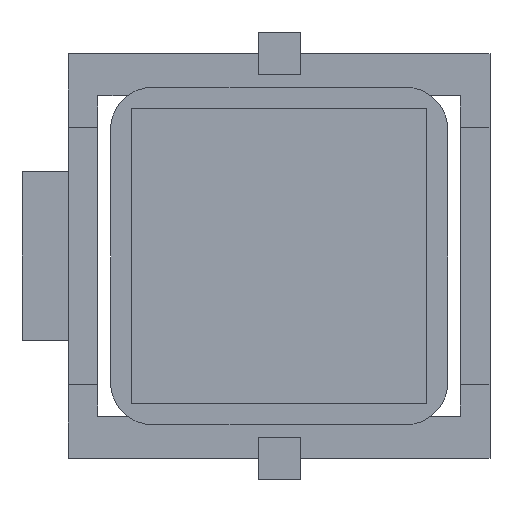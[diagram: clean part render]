
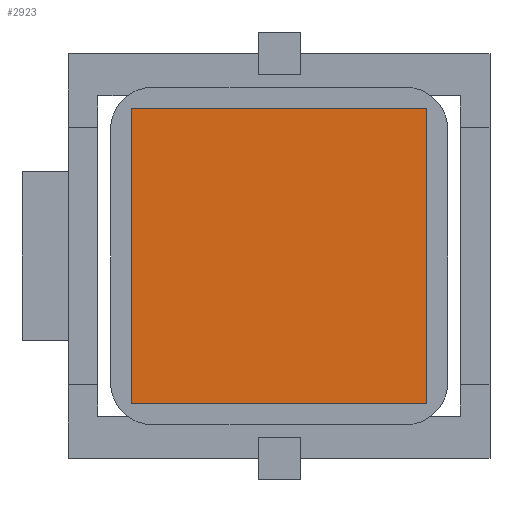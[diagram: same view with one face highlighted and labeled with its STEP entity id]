
A CAD part, front view. The second image highlights one B-rep face of the part: STEP entity #2923.
In plain terms, the highlighted planar face has unit normal (0, -1, 0).
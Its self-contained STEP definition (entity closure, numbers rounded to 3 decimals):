
#200 = EDGE_CURVE ( 'NONE', #708, #724, #4547, .T. ) ;
#300 = CARTESIAN_POINT ( 'NONE',  ( -2.913, -13.936, 14.225 ) ) ;
#400 = VECTOR ( 'NONE', #2028, 1000. ) ;
#423 = CARTESIAN_POINT ( 'NONE',  ( -2.913, -13.936, 0.225 ) ) ;
#668 = VECTOR ( 'NONE', #3876, 1000. ) ;
#708 = VERTEX_POINT ( 'NONE', #4004 ) ;
#724 = VERTEX_POINT ( 'NONE', #2916 ) ;
#941 = FACE_OUTER_BOUND ( 'NONE', #3936, .T. ) ;
#992 = CARTESIAN_POINT ( 'NONE',  ( -2.913, -13.936, 0.225 ) ) ;
#1210 = LINE ( 'NONE', #2283, #4342 ) ;
#1410 = CARTESIAN_POINT ( 'NONE',  ( 11.087, -13.936, 0.225 ) ) ;
#1507 = EDGE_CURVE ( 'NONE', #724, #1608, #3414, .T. ) ;
#1527 = ORIENTED_EDGE ( 'NONE', *, *, #3766, .F. ) ;
#1608 = VERTEX_POINT ( 'NONE', #1831 ) ;
#1723 = VERTEX_POINT ( 'NONE', #1410 ) ;
#1750 = ORIENTED_EDGE ( 'NONE', *, *, #2766, .F. ) ;
#1818 = LINE ( 'NONE', #423, #4440 ) ;
#1831 = CARTESIAN_POINT ( 'NONE',  ( 11.087, -13.936, 14.225 ) ) ;
#2028 = DIRECTION ( 'NONE',  ( 1., 0., 0. ) ) ;
#2031 = ORIENTED_EDGE ( 'NONE', *, *, #200, .F. ) ;
#2119 = AXIS2_PLACEMENT_3D ( 'NONE', #3711, #3372, #4079 ) ;
#2283 = CARTESIAN_POINT ( 'NONE',  ( 11.087, -13.936, 0.225 ) ) ;
#2766 = EDGE_CURVE ( 'NONE', #1608, #1723, #1210, .T. ) ;
#2841 = DIRECTION ( 'NONE',  ( -1., 0., 0. ) ) ;
#2916 = CARTESIAN_POINT ( 'NONE',  ( -2.913, -13.936, 14.225 ) ) ;
#2923 = ADVANCED_FACE ( 'NONE', ( #941 ), #4061, .F. ) ;
#3316 = DIRECTION ( 'NONE',  ( 0., 0., -1. ) ) ;
#3372 = DIRECTION ( 'NONE',  ( 0., 1., 0. ) ) ;
#3414 = LINE ( 'NONE', #300, #400 ) ;
#3711 = CARTESIAN_POINT ( 'NONE',  ( -2.913, -13.936, 0.225 ) ) ;
#3766 = EDGE_CURVE ( 'NONE', #1723, #708, #1818, .T. ) ;
#3815 = ORIENTED_EDGE ( 'NONE', *, *, #1507, .F. ) ;
#3876 = DIRECTION ( 'NONE',  ( 0., 0., 1. ) ) ;
#3936 = EDGE_LOOP ( 'NONE', ( #2031, #1527, #1750, #3815 ) ) ;
#4004 = CARTESIAN_POINT ( 'NONE',  ( -2.913, -13.936, 0.225 ) ) ;
#4061 = PLANE ( 'NONE',  #2119 ) ;
#4079 = DIRECTION ( 'NONE',  ( 0., 0., 1. ) ) ;
#4342 = VECTOR ( 'NONE', #3316, 1000. ) ;
#4440 = VECTOR ( 'NONE', #2841, 1000. ) ;
#4547 = LINE ( 'NONE', #992, #668 ) ;
